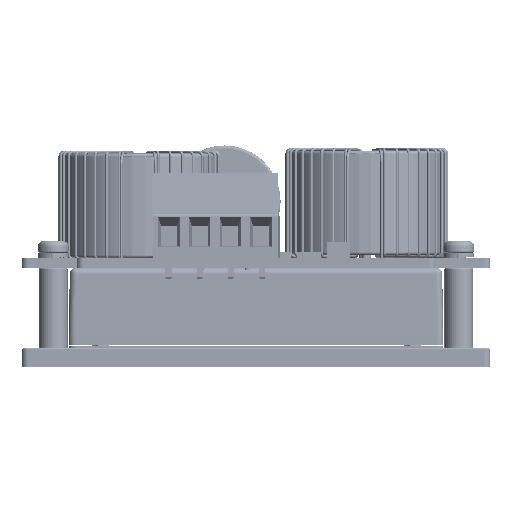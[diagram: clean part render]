
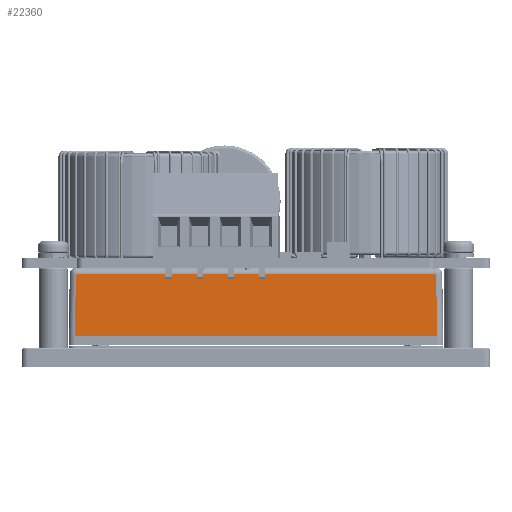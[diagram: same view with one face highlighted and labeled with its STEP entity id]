
A CAD part, left-side view. The second image highlights one B-rep face of the part: STEP entity #22360.
In plain terms, the highlighted planar face has unit normal (-1, 0, 0.018).
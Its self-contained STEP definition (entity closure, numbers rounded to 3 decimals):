
#4469 = EDGE_LOOP ( 'NONE', ( #31601, #23717, #100508, #112049 ) ) ;
#9110 = VERTEX_POINT ( 'NONE', #123229 ) ;
#13675 = EDGE_CURVE ( 'NONE', #9110, #98181, #128401, .T. ) ;
#22360 = ADVANCED_FACE ( 'NONE', ( #94001 ), #27322, .T. ) ;
#23717 = ORIENTED_EDGE ( 'NONE', *, *, #40040, .T. ) ;
#27322 = PLANE ( 'NONE',  #28650 ) ;
#28650 = AXIS2_PLACEMENT_3D ( 'NONE', #28719, #123876, #70648 ) ;
#28719 = CARTESIAN_POINT ( 'NONE',  ( -18.617, -15.295, -12.7 ) ) ;
#31172 = DIRECTION ( 'NONE',  ( -0.017, 0.017, -1. ) ) ;
#31601 = ORIENTED_EDGE ( 'NONE', *, *, #100605, .T. ) ;
#40040 = EDGE_CURVE ( 'NONE', #46109, #45228, #136663, .T. ) ;
#40455 = CARTESIAN_POINT ( 'NONE',  ( -18.599, 44.687, -11.653 ) ) ;
#43488 = LINE ( 'NONE', #54852, #115825 ) ;
#45228 = VERTEX_POINT ( 'NONE', #117315 ) ;
#46109 = VERTEX_POINT ( 'NONE', #85731 ) ;
#48068 = EDGE_CURVE ( 'NONE', #45228, #9110, #43488, .T. ) ;
#52316 = DIRECTION ( 'NONE',  ( 0., -1., 0. ) ) ;
#54852 = CARTESIAN_POINT ( 'NONE',  ( -18.441, 45.511, -2.583 ) ) ;
#62100 = CARTESIAN_POINT ( 'NONE',  ( -18.617, 44.705, -12.7 ) ) ;
#70648 = DIRECTION ( 'NONE',  ( 0.017, 0., 1. ) ) ;
#74025 = VECTOR ( 'NONE', #134611, 1000. ) ;
#85731 = CARTESIAN_POINT ( 'NONE',  ( -18.617, -14.295, -12.7 ) ) ;
#94001 = FACE_OUTER_BOUND ( 'NONE', #4469, .T. ) ;
#98181 = VERTEX_POINT ( 'NONE', #62100 ) ;
#100508 = ORIENTED_EDGE ( 'NONE', *, *, #48068, .T. ) ;
#100605 = EDGE_CURVE ( 'NONE', #98181, #46109, #126804, .T. ) ;
#103361 = CARTESIAN_POINT ( 'NONE',  ( -18.618, -14.295, -12.717 ) ) ;
#106207 = CARTESIAN_POINT ( 'NONE',  ( -18.617, 45.705, -12.7 ) ) ;
#112049 = ORIENTED_EDGE ( 'NONE', *, *, #13675, .T. ) ;
#115825 = VECTOR ( 'NONE', #129347, 1000. ) ;
#117315 = CARTESIAN_POINT ( 'NONE',  ( -18.441, -14.119, -2.583 ) ) ;
#123229 = CARTESIAN_POINT ( 'NONE',  ( -18.441, 44.529, -2.583 ) ) ;
#123876 = DIRECTION ( 'NONE',  ( -1., 0., 0.017 ) ) ;
#124726 = VECTOR ( 'NONE', #31172, 1000. ) ;
#126804 = LINE ( 'NONE', #106207, #127155 ) ;
#127155 = VECTOR ( 'NONE', #52316, 1000. ) ;
#128401 = LINE ( 'NONE', #40455, #124726 ) ;
#129347 = DIRECTION ( 'NONE',  ( 0., 1., 0. ) ) ;
#134611 = DIRECTION ( 'NONE',  ( 0.017, 0.017, 1. ) ) ;
#136663 = LINE ( 'NONE', #103361, #74025 ) ;
